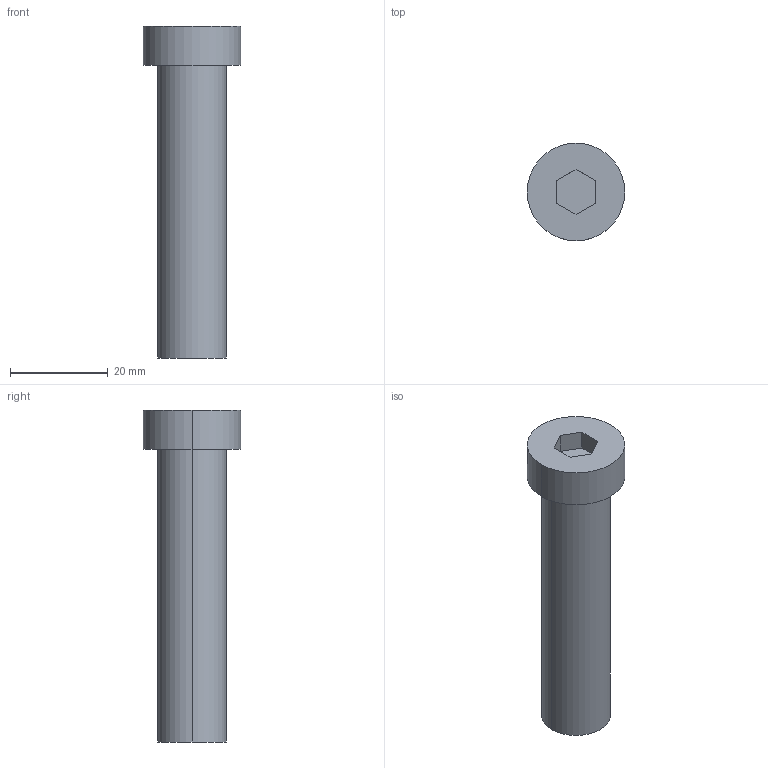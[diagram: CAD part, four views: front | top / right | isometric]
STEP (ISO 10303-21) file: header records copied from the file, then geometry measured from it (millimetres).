
FILE_DESCRIPTION (( 'STEP AP214' ), '1' );
FILE_NAME ('BruyRubio_TGH__14_x_60_-_M-8.STEP', '2019-12-22T23:34:21', ( '' ), ( '' ), 'SwSTEP 2.0', 'SolidWorks 2017', '' );
FILE_SCHEMA (( 'AUTOMOTIVE_DESIGN' ));
Length unit declared in the file: millimetre
Products named in the file (1): BruyRubio_TGH__14_x_60_-_M-8
Bounding box: 20 x 20 x 68 mm (x, y, z)
Volume: 10800 mm3; surface area: 5242 mm2
Topology: 2 solids, 2 shells, 27 faces, 58 edges, 37 vertices
Faces by surface type: plane 13, cylinder 12, cone 2
Entity records: 1070 total; most frequent: DIRECTION 136, CARTESIAN_POINT 121, ORIENTED_EDGE 112, EDGE_CURVE 56, AXIS2_PLACEMENT_3D 52, VERTEX_POINT 37, EDGE_LOOP 33, LINE 32
